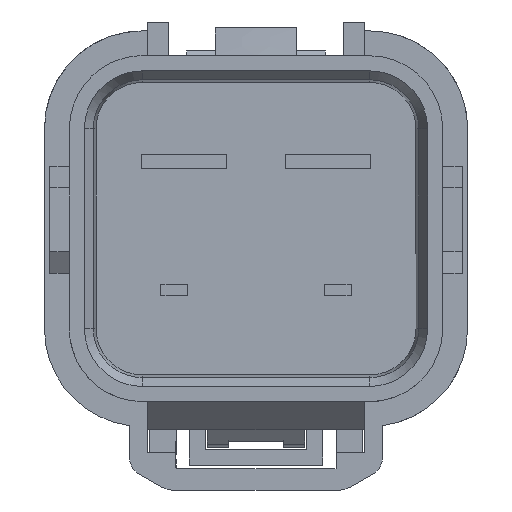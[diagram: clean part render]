
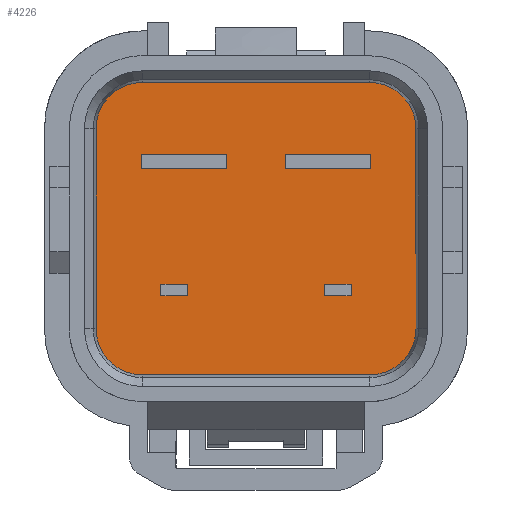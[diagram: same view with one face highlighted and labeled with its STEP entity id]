
A CAD part, left-side view. The second image highlights one B-rep face of the part: STEP entity #4226.
In plain terms, the highlighted planar face has unit normal (-1, 0, 0).
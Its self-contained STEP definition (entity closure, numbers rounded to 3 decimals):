
#471=AXIS2_PLACEMENT_3D('Plane Axis2P3D',#468,#469,#470) ;
#3985=AXIS2_PLACEMENT_3D('Circle Axis2P3D',#3983,#3984,$) ;
#4044=AXIS2_PLACEMENT_3D('Circle Axis2P3D',#4042,#4043,$) ;
#4058=AXIS2_PLACEMENT_3D('Circle Axis2P3D',#4056,#4057,$) ;
#4077=AXIS2_PLACEMENT_3D('Circle Axis2P3D',#4075,#4076,$) ;
#468=CARTESIAN_POINT('Axis2P3D Location',(0.,0.,-2.6)) ;
#3980=CARTESIAN_POINT('Vertex',(0.,-6.4,15.35)) ;
#3983=CARTESIAN_POINT('Axis2P3D Location',(0.,-6.4,12.75)) ;
#3987=CARTESIAN_POINT('Vertex',(0.,-9.,12.75)) ;
#4033=CARTESIAN_POINT('Line Origine',(0.,9.,7.125)) ;
#4037=CARTESIAN_POINT('Vertex',(0.,9.,12.75)) ;
#4039=CARTESIAN_POINT('Vertex',(0.,9.,1.5)) ;
#4042=CARTESIAN_POINT('Axis2P3D Location',(0.,6.4,1.5)) ;
#4046=CARTESIAN_POINT('Vertex',(0.,6.4,-1.1)) ;
#4049=CARTESIAN_POINT('Line Origine',(0.,0.,-1.1)) ;
#4053=CARTESIAN_POINT('Vertex',(0.,-6.4,-1.1)) ;
#4056=CARTESIAN_POINT('Axis2P3D Location',(0.,-6.4,1.5)) ;
#4060=CARTESIAN_POINT('Vertex',(0.,-9.,1.5)) ;
#4063=CARTESIAN_POINT('Line Origine',(0.,-9.,7.125)) ;
#4068=CARTESIAN_POINT('Line Origine',(0.,0.,15.35)) ;
#4072=CARTESIAN_POINT('Vertex',(0.,6.4,15.35)) ;
#4075=CARTESIAN_POINT('Axis2P3D Location',(0.,6.4,12.75)) ;
#4090=CARTESIAN_POINT('Line Origine',(0.,4.6,4.)) ;
#4094=CARTESIAN_POINT('Vertex',(0.,3.85,4.)) ;
#4096=CARTESIAN_POINT('Vertex',(0.,5.35,4.)) ;
#4099=CARTESIAN_POINT('Line Origine',(0.,3.85,3.68)) ;
#4103=CARTESIAN_POINT('Vertex',(0.,3.85,3.36)) ;
#4106=CARTESIAN_POINT('Line Origine',(0.,4.6,3.36)) ;
#4110=CARTESIAN_POINT('Vertex',(0.,5.35,3.36)) ;
#4113=CARTESIAN_POINT('Line Origine',(0.,5.35,3.68)) ;
#4124=CARTESIAN_POINT('Line Origine',(0.,-3.85,3.68)) ;
#4128=CARTESIAN_POINT('Vertex',(0.,-3.85,4.)) ;
#4130=CARTESIAN_POINT('Vertex',(0.,-3.85,3.36)) ;
#4133=CARTESIAN_POINT('Line Origine',(0.,-4.6,4.)) ;
#4137=CARTESIAN_POINT('Vertex',(0.,-5.35,4.)) ;
#4140=CARTESIAN_POINT('Line Origine',(0.,-5.35,3.68)) ;
#4144=CARTESIAN_POINT('Vertex',(0.,-5.35,3.36)) ;
#4147=CARTESIAN_POINT('Line Origine',(0.,-4.6,3.36)) ;
#4158=CARTESIAN_POINT('Line Origine',(0.,-6.45,10.9)) ;
#4162=CARTESIAN_POINT('Vertex',(0.,-6.45,10.5)) ;
#4164=CARTESIAN_POINT('Vertex',(0.,-6.45,11.3)) ;
#4167=CARTESIAN_POINT('Line Origine',(0.,-4.05,10.5)) ;
#4171=CARTESIAN_POINT('Vertex',(0.,-1.65,10.5)) ;
#4174=CARTESIAN_POINT('Line Origine',(0.,-1.65,10.9)) ;
#4178=CARTESIAN_POINT('Vertex',(0.,-1.65,11.3)) ;
#4181=CARTESIAN_POINT('Line Origine',(0.,-4.05,11.3)) ;
#4192=CARTESIAN_POINT('Line Origine',(0.,6.45,10.9)) ;
#4196=CARTESIAN_POINT('Vertex',(0.,6.45,11.3)) ;
#4198=CARTESIAN_POINT('Vertex',(0.,6.45,10.5)) ;
#4201=CARTESIAN_POINT('Line Origine',(0.,4.05,11.3)) ;
#4205=CARTESIAN_POINT('Vertex',(0.,1.65,11.3)) ;
#4208=CARTESIAN_POINT('Line Origine',(0.,1.65,10.9)) ;
#4212=CARTESIAN_POINT('Vertex',(0.,1.65,10.5)) ;
#4215=CARTESIAN_POINT('Line Origine',(0.,4.05,10.5)) ;
#469=DIRECTION('Axis2P3D Direction',(-1.,0.,0.)) ;
#470=DIRECTION('Axis2P3D XDirection',(0.,-1.,0.)) ;
#3984=DIRECTION('Axis2P3D Direction',(-1.,0.,0.)) ;
#4034=DIRECTION('Vector Direction',(0.,0.,-1.)) ;
#4043=DIRECTION('Axis2P3D Direction',(-1.,0.,0.)) ;
#4050=DIRECTION('Vector Direction',(0.,1.,0.)) ;
#4057=DIRECTION('Axis2P3D Direction',(-1.,0.,0.)) ;
#4064=DIRECTION('Vector Direction',(0.,0.,1.)) ;
#4069=DIRECTION('Vector Direction',(0.,-1.,0.)) ;
#4076=DIRECTION('Axis2P3D Direction',(-1.,0.,0.)) ;
#4091=DIRECTION('Vector Direction',(0.,-1.,0.)) ;
#4100=DIRECTION('Vector Direction',(0.,0.,1.)) ;
#4107=DIRECTION('Vector Direction',(0.,1.,0.)) ;
#4114=DIRECTION('Vector Direction',(0.,0.,-1.)) ;
#4125=DIRECTION('Vector Direction',(0.,0.,-1.)) ;
#4134=DIRECTION('Vector Direction',(0.,-1.,0.)) ;
#4141=DIRECTION('Vector Direction',(0.,0.,1.)) ;
#4148=DIRECTION('Vector Direction',(0.,1.,0.)) ;
#4159=DIRECTION('Vector Direction',(0.,0.,1.)) ;
#4168=DIRECTION('Vector Direction',(0.,1.,0.)) ;
#4175=DIRECTION('Vector Direction',(0.,0.,-1.)) ;
#4182=DIRECTION('Vector Direction',(0.,-1.,0.)) ;
#4193=DIRECTION('Vector Direction',(0.,0.,-1.)) ;
#4202=DIRECTION('Vector Direction',(0.,-1.,0.)) ;
#4209=DIRECTION('Vector Direction',(0.,0.,1.)) ;
#4216=DIRECTION('Vector Direction',(0.,1.,0.)) ;
#4035=VECTOR('Line Direction',#4034,1.) ;
#4051=VECTOR('Line Direction',#4050,1.) ;
#4065=VECTOR('Line Direction',#4064,1.) ;
#4070=VECTOR('Line Direction',#4069,1.) ;
#4092=VECTOR('Line Direction',#4091,1.) ;
#4101=VECTOR('Line Direction',#4100,1.) ;
#4108=VECTOR('Line Direction',#4107,1.) ;
#4115=VECTOR('Line Direction',#4114,1.) ;
#4126=VECTOR('Line Direction',#4125,1.) ;
#4135=VECTOR('Line Direction',#4134,1.) ;
#4142=VECTOR('Line Direction',#4141,1.) ;
#4149=VECTOR('Line Direction',#4148,1.) ;
#4160=VECTOR('Line Direction',#4159,1.) ;
#4169=VECTOR('Line Direction',#4168,1.) ;
#4176=VECTOR('Line Direction',#4175,1.) ;
#4183=VECTOR('Line Direction',#4182,1.) ;
#4194=VECTOR('Line Direction',#4193,1.) ;
#4203=VECTOR('Line Direction',#4202,1.) ;
#4210=VECTOR('Line Direction',#4209,1.) ;
#4217=VECTOR('Line Direction',#4216,1.) ;
#4081=ORIENTED_EDGE('',*,*,#4041,.T.) ;
#4082=ORIENTED_EDGE('',*,*,#4048,.T.) ;
#4083=ORIENTED_EDGE('',*,*,#4055,.T.) ;
#4084=ORIENTED_EDGE('',*,*,#4062,.T.) ;
#4085=ORIENTED_EDGE('',*,*,#4067,.T.) ;
#4086=ORIENTED_EDGE('',*,*,#3989,.T.) ;
#4087=ORIENTED_EDGE('',*,*,#4074,.T.) ;
#4088=ORIENTED_EDGE('',*,*,#4079,.T.) ;
#4119=ORIENTED_EDGE('',*,*,#4098,.F.) ;
#4120=ORIENTED_EDGE('',*,*,#4105,.F.) ;
#4121=ORIENTED_EDGE('',*,*,#4112,.F.) ;
#4122=ORIENTED_EDGE('',*,*,#4117,.F.) ;
#4153=ORIENTED_EDGE('',*,*,#4132,.F.) ;
#4154=ORIENTED_EDGE('',*,*,#4139,.F.) ;
#4155=ORIENTED_EDGE('',*,*,#4146,.F.) ;
#4156=ORIENTED_EDGE('',*,*,#4151,.F.) ;
#4187=ORIENTED_EDGE('',*,*,#4166,.F.) ;
#4188=ORIENTED_EDGE('',*,*,#4173,.F.) ;
#4189=ORIENTED_EDGE('',*,*,#4180,.F.) ;
#4190=ORIENTED_EDGE('',*,*,#4185,.F.) ;
#4221=ORIENTED_EDGE('',*,*,#4200,.F.) ;
#4222=ORIENTED_EDGE('',*,*,#4207,.F.) ;
#4223=ORIENTED_EDGE('',*,*,#4214,.F.) ;
#4224=ORIENTED_EDGE('',*,*,#4219,.F.) ;
#4123=FACE_BOUND('',#4118,.T.) ;
#4157=FACE_BOUND('',#4152,.T.) ;
#4191=FACE_BOUND('',#4186,.T.) ;
#4225=FACE_BOUND('',#4220,.T.) ;
#4226=ADVANCED_FACE('HSG',(#4089,#4123,#4157,#4191,#4225),#472,.T.) ;
#3986=CIRCLE('generated circle',#3985,2.6) ;
#4045=CIRCLE('generated circle',#4044,2.6) ;
#4059=CIRCLE('generated circle',#4058,2.6) ;
#4078=CIRCLE('generated circle',#4077,2.6) ;
#3989=EDGE_CURVE('',#3988,#3981,#3986,.T.) ;
#4041=EDGE_CURVE('',#4038,#4040,#4036,.T.) ;
#4048=EDGE_CURVE('',#4040,#4047,#4045,.T.) ;
#4055=EDGE_CURVE('',#4047,#4054,#4052,.F.) ;
#4062=EDGE_CURVE('',#4054,#4061,#4059,.T.) ;
#4067=EDGE_CURVE('',#4061,#3988,#4066,.T.) ;
#4074=EDGE_CURVE('',#3981,#4073,#4071,.F.) ;
#4079=EDGE_CURVE('',#4073,#4038,#4078,.T.) ;
#4098=EDGE_CURVE('',#4095,#4097,#4093,.F.) ;
#4105=EDGE_CURVE('',#4104,#4095,#4102,.T.) ;
#4112=EDGE_CURVE('',#4111,#4104,#4109,.F.) ;
#4117=EDGE_CURVE('',#4097,#4111,#4116,.T.) ;
#4132=EDGE_CURVE('',#4129,#4131,#4127,.T.) ;
#4139=EDGE_CURVE('',#4138,#4129,#4136,.F.) ;
#4146=EDGE_CURVE('',#4145,#4138,#4143,.T.) ;
#4151=EDGE_CURVE('',#4131,#4145,#4150,.F.) ;
#4166=EDGE_CURVE('',#4163,#4165,#4161,.T.) ;
#4173=EDGE_CURVE('',#4172,#4163,#4170,.F.) ;
#4180=EDGE_CURVE('',#4179,#4172,#4177,.T.) ;
#4185=EDGE_CURVE('',#4165,#4179,#4184,.F.) ;
#4200=EDGE_CURVE('',#4197,#4199,#4195,.T.) ;
#4207=EDGE_CURVE('',#4206,#4197,#4204,.F.) ;
#4214=EDGE_CURVE('',#4213,#4206,#4211,.T.) ;
#4219=EDGE_CURVE('',#4199,#4213,#4218,.F.) ;
#4080=EDGE_LOOP('',(#4081,#4082,#4083,#4084,#4085,#4086,#4087,#4088)) ;
#4118=EDGE_LOOP('',(#4119,#4120,#4121,#4122)) ;
#4152=EDGE_LOOP('',(#4153,#4154,#4155,#4156)) ;
#4186=EDGE_LOOP('',(#4187,#4188,#4189,#4190)) ;
#4220=EDGE_LOOP('',(#4221,#4222,#4223,#4224)) ;
#4089=FACE_OUTER_BOUND('',#4080,.T.) ;
#4036=LINE('Line',#4033,#4035) ;
#4052=LINE('Line',#4049,#4051) ;
#4066=LINE('Line',#4063,#4065) ;
#4071=LINE('Line',#4068,#4070) ;
#4093=LINE('Line',#4090,#4092) ;
#4102=LINE('Line',#4099,#4101) ;
#4109=LINE('Line',#4106,#4108) ;
#4116=LINE('Line',#4113,#4115) ;
#4127=LINE('Line',#4124,#4126) ;
#4136=LINE('Line',#4133,#4135) ;
#4143=LINE('Line',#4140,#4142) ;
#4150=LINE('Line',#4147,#4149) ;
#4161=LINE('Line',#4158,#4160) ;
#4170=LINE('Line',#4167,#4169) ;
#4177=LINE('Line',#4174,#4176) ;
#4184=LINE('Line',#4181,#4183) ;
#4195=LINE('Line',#4192,#4194) ;
#4204=LINE('Line',#4201,#4203) ;
#4211=LINE('Line',#4208,#4210) ;
#4218=LINE('Line',#4215,#4217) ;
#472=PLANE('',#471) ;
#3981=VERTEX_POINT('',#3980) ;
#3988=VERTEX_POINT('',#3987) ;
#4038=VERTEX_POINT('',#4037) ;
#4040=VERTEX_POINT('',#4039) ;
#4047=VERTEX_POINT('',#4046) ;
#4054=VERTEX_POINT('',#4053) ;
#4061=VERTEX_POINT('',#4060) ;
#4073=VERTEX_POINT('',#4072) ;
#4095=VERTEX_POINT('',#4094) ;
#4097=VERTEX_POINT('',#4096) ;
#4104=VERTEX_POINT('',#4103) ;
#4111=VERTEX_POINT('',#4110) ;
#4129=VERTEX_POINT('',#4128) ;
#4131=VERTEX_POINT('',#4130) ;
#4138=VERTEX_POINT('',#4137) ;
#4145=VERTEX_POINT('',#4144) ;
#4163=VERTEX_POINT('',#4162) ;
#4165=VERTEX_POINT('',#4164) ;
#4172=VERTEX_POINT('',#4171) ;
#4179=VERTEX_POINT('',#4178) ;
#4197=VERTEX_POINT('',#4196) ;
#4199=VERTEX_POINT('',#4198) ;
#4206=VERTEX_POINT('',#4205) ;
#4213=VERTEX_POINT('',#4212) ;
